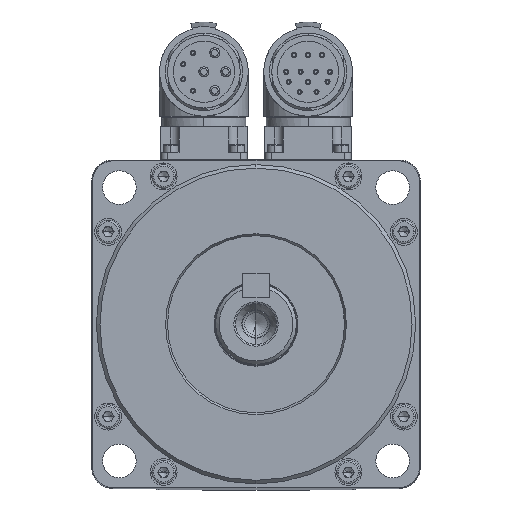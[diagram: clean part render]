
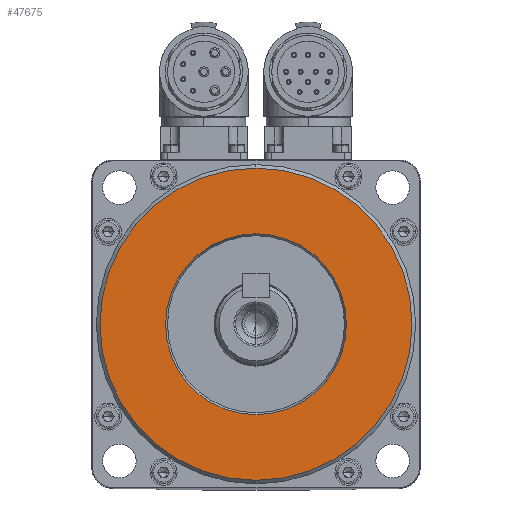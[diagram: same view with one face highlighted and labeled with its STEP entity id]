
A CAD part, top view. The second image highlights one B-rep face of the part: STEP entity #47675.
In plain terms, the highlighted planar face has unit normal (0, 0, 1).
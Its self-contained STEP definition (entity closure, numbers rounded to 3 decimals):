
#825 = AXIS2_PLACEMENT_3D ( 'NONE', #34311, #24406, #54569 ) ;
#2156 = DIRECTION ( 'NONE',  ( 0., 0., -1. ) ) ;
#3580 = DIRECTION ( 'NONE',  ( 0., 1., 0. ) ) ;
#4561 = ORIENTED_EDGE ( 'NONE', *, *, #61960, .T. ) ;
#4799 = VERTEX_POINT ( 'NONE', #6359 ) ;
#6073 = VERTEX_POINT ( 'NONE', #64517 ) ;
#6359 = CARTESIAN_POINT ( 'NONE',  ( 0., -46.433, 75.864 ) ) ;
#6770 = EDGE_LOOP ( 'NONE', ( #63982, #11651 ) ) ;
#8460 = FACE_OUTER_BOUND ( 'NONE', #6770, .T. ) ;
#11651 = ORIENTED_EDGE ( 'NONE', *, *, #35749, .T. ) ;
#13462 = CARTESIAN_POINT ( 'NONE',  ( 0., 0., 75.864 ) ) ;
#14737 = CIRCLE ( 'NONE', #825, 26.908 ) ;
#15923 = CARTESIAN_POINT ( 'NONE',  ( 0., 0., 75.864 ) ) ;
#17608 = AXIS2_PLACEMENT_3D ( 'NONE', #26923, #2156, #37197 ) ;
#20101 = DIRECTION ( 'NONE',  ( 0., 0., 1. ) ) ;
#21064 = FACE_BOUND ( 'NONE', #63082, .T. ) ;
#24406 = DIRECTION ( 'NONE',  ( 0., 0., -1. ) ) ;
#25591 = EDGE_CURVE ( 'NONE', #56764, #6073, #14737, .T. ) ;
#26923 = CARTESIAN_POINT ( 'NONE',  ( 0., 0., 75.864 ) ) ;
#28806 = CARTESIAN_POINT ( 'NONE',  ( 0., 0., 75.864 ) ) ;
#30078 = AXIS2_PLACEMENT_3D ( 'NONE', #13462, #38195, #43221 ) ;
#33190 = VERTEX_POINT ( 'NONE', #42523 ) ;
#34311 = CARTESIAN_POINT ( 'NONE',  ( 0., 0., 75.864 ) ) ;
#35749 = EDGE_CURVE ( 'NONE', #4799, #33190, #41317, .T. ) ;
#37197 = DIRECTION ( 'NONE',  ( 0., 1., 0. ) ) ;
#38195 = DIRECTION ( 'NONE',  ( 0., 0., -1. ) ) ;
#41317 = CIRCLE ( 'NONE', #48015, 46.433 ) ;
#42523 = CARTESIAN_POINT ( 'NONE',  ( 0., 46.433, 75.864 ) ) ;
#43221 = DIRECTION ( 'NONE',  ( 0., 1., 0. ) ) ;
#43233 = DIRECTION ( 'NONE',  ( 0., 0., 1. ) ) ;
#44888 = AXIS2_PLACEMENT_3D ( 'NONE', #15923, #20101, #50463 ) ;
#47675 = ADVANCED_FACE ( 'NONE', ( #8460, #21064 ), #56811, .F. ) ;
#48015 = AXIS2_PLACEMENT_3D ( 'NONE', #28806, #43233, #3580 ) ;
#48732 = CIRCLE ( 'NONE', #30078, 26.908 ) ;
#49315 = EDGE_CURVE ( 'NONE', #33190, #4799, #53087, .T. ) ;
#50463 = DIRECTION ( 'NONE',  ( 0., 1., 0. ) ) ;
#52254 = CARTESIAN_POINT ( 'NONE',  ( 0., -26.908, 75.864 ) ) ;
#53087 = CIRCLE ( 'NONE', #44888, 46.433 ) ;
#54569 = DIRECTION ( 'NONE',  ( 0., 1., 0. ) ) ;
#56764 = VERTEX_POINT ( 'NONE', #52254 ) ;
#56811 = PLANE ( 'NONE',  #17608 ) ;
#61960 = EDGE_CURVE ( 'NONE', #6073, #56764, #48732, .T. ) ;
#62922 = ORIENTED_EDGE ( 'NONE', *, *, #25591, .T. ) ;
#63082 = EDGE_LOOP ( 'NONE', ( #62922, #4561 ) ) ;
#63982 = ORIENTED_EDGE ( 'NONE', *, *, #49315, .T. ) ;
#64517 = CARTESIAN_POINT ( 'NONE',  ( 0., 26.908, 75.864 ) ) ;
